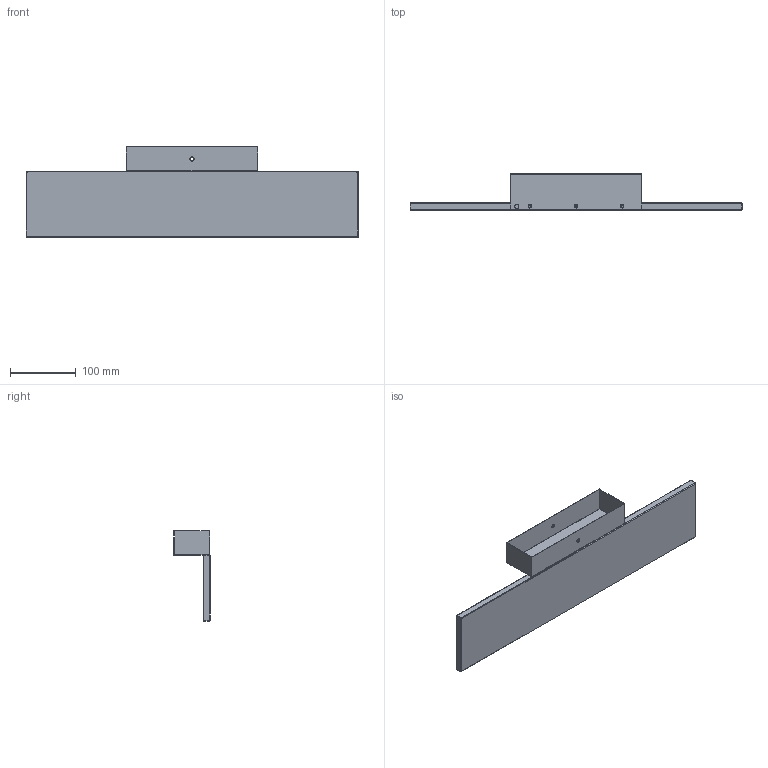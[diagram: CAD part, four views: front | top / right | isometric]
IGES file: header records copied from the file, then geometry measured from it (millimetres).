
Start section: SolidWorks IGES file using analytic representation for surfaces
Global section: file name: C:\SANTACOLE_PDM\Proyectos Catálogo\PROD-P11-009 -- PIERO\6_Técnico comercial\3D\Aplique\BW R1 Aplique\Blanco White R1.IGS; native system: SolidWorks 2019; preprocessor: SolidWorks 2019; author: louis.ferraz; date: 200409.140349; units: millimetre
Bounding box: 504 x 55.5 x 137 mm (x, y, z)
Surface area: 289220.8 mm2 (no closed solid volume)
Topology: 0 solids, 0 shells, 732 faces, 6190 edges, 6190 vertices
Faces by surface type: bspline 642, revolution 90
